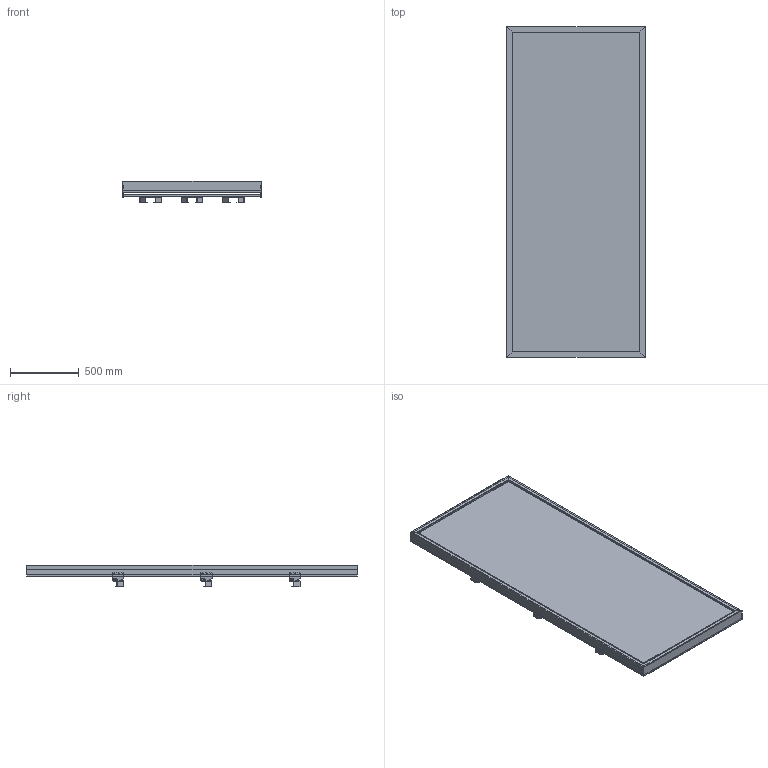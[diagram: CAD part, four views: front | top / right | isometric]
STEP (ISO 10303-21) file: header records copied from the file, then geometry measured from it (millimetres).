
FILE_DESCRIPTION (( 'STEP AP203' ), '1' );
FILE_NAME ('Padel Racket Display 1005mm - Single Holder.STEP', '2026-03-30T11:36:39', ( '' ), ( '' ), 'SwSTEP 2.0', 'SolidWorks 2025', '' );
FILE_SCHEMA (( 'CONFIG_CONTROL_DESIGN' ));
Length unit declared in the file: millimetre
Products named in the file (7): 0001-31-SA26 - 1005W Rear support Bar_Assem8; 368-01-GA01; 0001-31-GA10 - 1005W Slotted upbright; Padel Racket Display 1005mm - Single Holder; 0001-31-131.STEP; 0001-31-103.STEP; 0001-31-SA26 - 1005W Rear support Bar.STEP
Assembly tree (17 placements, depth 4):
  Padel Racket Display 1005mm - Single Holder
    0001-31-GA10 - 1005W Slotted upbright
    0001-31-SA26 - 1005W Rear support Bar_Assem8  x3
      0001-31-SA26 - 1005W Rear support Bar.STEP
        0001-31-103.STEP  x2
        0001-31-131.STEP
    368-01-GA01  x9
Bounding box: 1005.74 x 2400 x 158.15 mm (x, y, z)
Volume: 8802718.5 mm3; surface area: 12746635.7 mm2
Topology: 24 solids, 24 shells, 1393 faces, 4119 edges, 2626 vertices
Faces by surface type: plane 1102, cylinder 291
Entity records: 28173 total; most frequent: CARTESIAN_POINT 5200, ORIENTED_EDGE 5020, DIRECTION 3962, EDGE_CURVE 2510, LINE 2350, VECTOR 2350, VERTEX_POINT 1660, EDGE_LOOP 884
